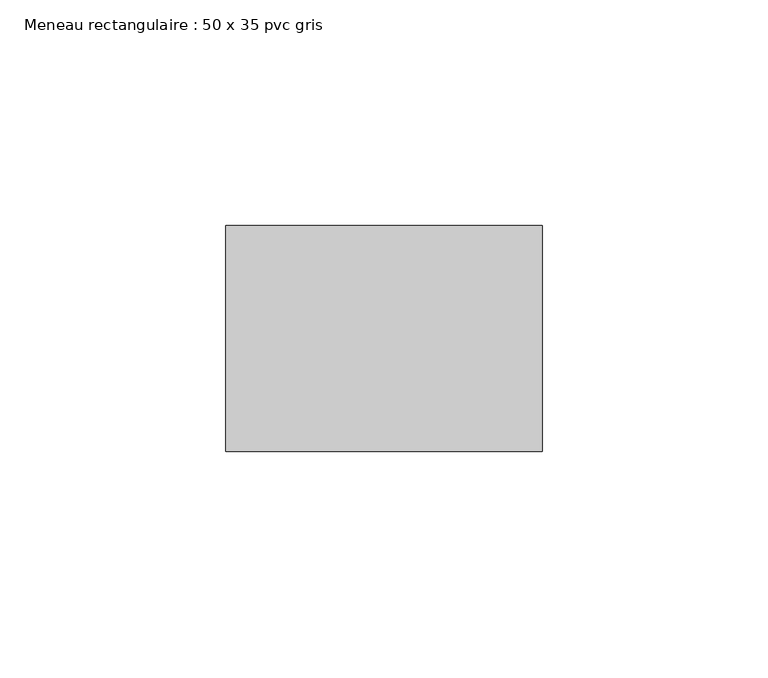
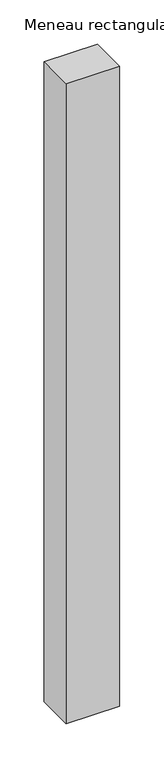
"""IFC4 building model written with IfcOpenShell, lengths in millimetres: member geometry, Meneau rectangulaire : 50 x 35 pvc gris."""

from ifc_helpers import new_model, si_unit, frame, origin, place, context, project, spatial, polyline, outline, extrude, source, transform, mapped, element, save


def meneau_rectangulaire_50_x_35_pvc_gris_7c33f028(model_context):
    return source(origin(), model_context, "Body", "SweptSolid", [
        extrude(outline(polyline([(35.0, 0.0), (35.0, -50.0), (-35.0, -50.0), (-35.0, 0.0), (35.0, 0.0)])), frame((0.0, 0.0, -884.0), z_axis=(0.0, 0.0, 1.0), x_axis=(1.0, 0.0, 0.0)), (0.0, 0.0, 1.0), 884.0),
    ])


if __name__ == "__main__":
    model = new_model("IFC4")
    model_context = context("Model", 3, world=origin())
    ifc_project = project(units=[si_unit("LENGTHUNIT", "METRE", prefix="MILLI")], contexts=[model_context])
    site = spatial("IfcSite", under=ifc_project)
    building = spatial("IfcBuilding", under=site)
    placement = place(None, origin())
    meneau_rectangulaire_50_x_35_pvc_gris_shape = meneau_rectangulaire_50_x_35_pvc_gris_7c33f028(model_context)
    element("IfcMember", 1, ObjectType="Meneau rectangulaire : 50 x 35 pvc gris", at=placement, inside=building, context=model_context, shape_type="MappedRepresentation", body=[
        mapped(meneau_rectangulaire_50_x_35_pvc_gris_shape, transform((0.0, 0.0, 0.0), x_axis=(1.0, 0.0, 0.0), y_axis=(0.0, 1.0, 0.0), z_axis=(0.0, 0.0, 1.0))),
    ])
    save(model, "model.ifc")
